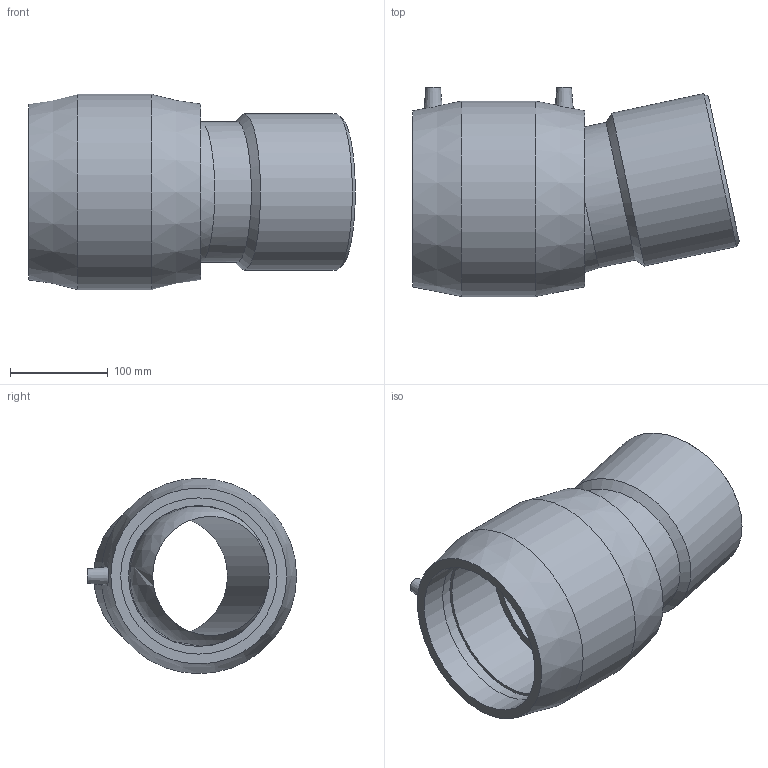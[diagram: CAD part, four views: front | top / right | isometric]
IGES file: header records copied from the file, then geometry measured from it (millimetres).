
Global section: file name: 4947D4160.ipt; native system: Autodesk Inventor 2015; preprocessor: unknown; author: KIM; date: 20171106.094211; units: millimetre
Bounding box: 334.17 x 214 x 200 mm (x, y, z)
Volume: 3250353.6 mm3; surface area: 376524 mm2
Topology: 1 solids, 1 shells, 32 faces, 74 edges, 49 vertices
Faces by surface type: plane 11, revolution 7, cone 6, cylinder 6, sphere 2
Full cylindrical faces by diameter (mm): 4 x2, 144 x1, 160 x1, 200 x1
